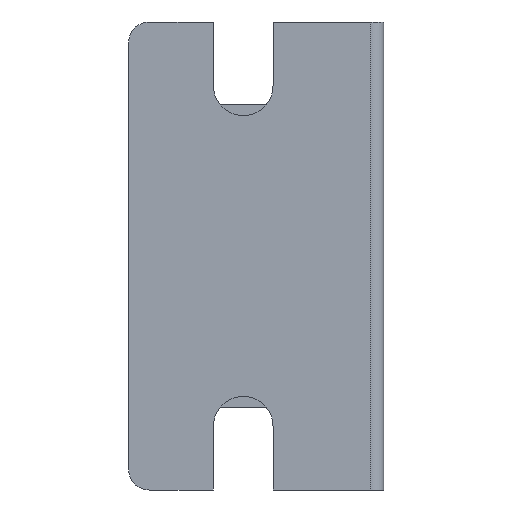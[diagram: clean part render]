
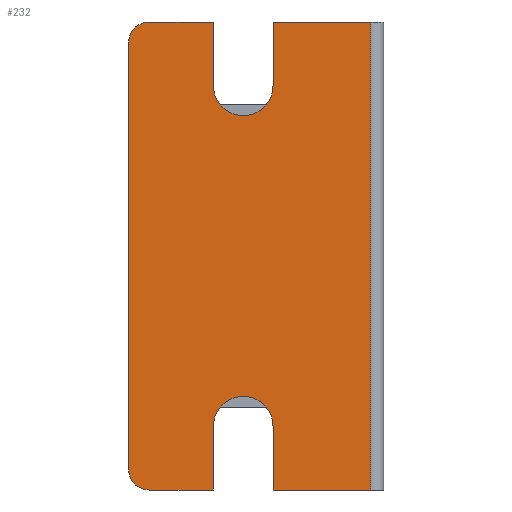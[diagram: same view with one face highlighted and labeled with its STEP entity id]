
A CAD part, front view. The second image highlights one B-rep face of the part: STEP entity #232.
In plain terms, the highlighted planar face has unit normal (0, -1, 0).
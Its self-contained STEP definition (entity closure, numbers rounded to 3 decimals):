
#19 = VERTEX_POINT ( 'NONE', #455 ) ;
#22 = EDGE_CURVE ( 'NONE', #468, #884, #470, .T. ) ;
#24 = LINE ( 'NONE', #951, #693 ) ;
#39 = CARTESIAN_POINT ( 'NONE',  ( -27., 0., -50. ) ) ;
#52 = DIRECTION ( 'NONE',  ( 0., 0., 1. ) ) ;
#86 = FACE_OUTER_BOUND ( 'NONE', #400, .T. ) ;
#88 = CARTESIAN_POINT ( 'NONE',  ( -7., 0., 40. ) ) ;
#96 = CIRCLE ( 'NONE', #1161, 7. ) ;
#114 = DIRECTION ( 'NONE',  ( 0., 1., 0. ) ) ;
#140 = VERTEX_POINT ( 'NONE', #1133 ) ;
#144 = VERTEX_POINT ( 'NONE', #785 ) ;
#146 = ORIENTED_EDGE ( 'NONE', *, *, #1157, .T. ) ;
#164 = VECTOR ( 'NONE', #1259, 1000. ) ;
#171 = EDGE_CURVE ( 'NONE', #701, #19, #1160, .T. ) ;
#183 = CIRCLE ( 'NONE', #1007, 7. ) ;
#185 = DIRECTION ( 'NONE',  ( 0., -1., 0. ) ) ;
#188 = CARTESIAN_POINT ( 'NONE',  ( -7., 0., -40. ) ) ;
#196 = ORIENTED_EDGE ( 'NONE', *, *, #22, .T. ) ;
#203 = VERTEX_POINT ( 'NONE', #610 ) ;
#216 = DIRECTION ( 'NONE',  ( 0., 0., 1. ) ) ;
#218 = LINE ( 'NONE', #599, #1244 ) ;
#222 = AXIS2_PLACEMENT_3D ( 'NONE', #717, #114, #216 ) ;
#229 = DIRECTION ( 'NONE',  ( 0., 1., 0. ) ) ;
#232 = ADVANCED_FACE ( 'NONE', ( #86 ), #724, .F. ) ;
#244 = ORIENTED_EDGE ( 'NONE', *, *, #756, .T. ) ;
#250 = CIRCLE ( 'NONE', #859, 5. ) ;
#252 = CARTESIAN_POINT ( 'NONE',  ( 7., 0., 40. ) ) ;
#253 = ORIENTED_EDGE ( 'NONE', *, *, #1246, .T. ) ;
#265 = CARTESIAN_POINT ( 'NONE',  ( -27., 0., 55. ) ) ;
#284 = DIRECTION ( 'NONE',  ( 0., 0., 1. ) ) ;
#290 = VECTOR ( 'NONE', #1019, 1000. ) ;
#299 = VERTEX_POINT ( 'NONE', #252 ) ;
#330 = CIRCLE ( 'NONE', #731, 7. ) ;
#364 = LINE ( 'NONE', #265, #776 ) ;
#387 = CARTESIAN_POINT ( 'NONE',  ( 7., 0., -55. ) ) ;
#400 = EDGE_LOOP ( 'NONE', ( #1214, #1207, #971, #479, #588, #196, #244, #403, #740, #253, #938, #832, #146, #863, #1060 ) ) ;
#403 = ORIENTED_EDGE ( 'NONE', *, *, #519, .T. ) ;
#417 = VECTOR ( 'NONE', #988, 1000. ) ;
#424 = DIRECTION ( 'NONE',  ( 1., 0., 0. ) ) ;
#442 = VERTEX_POINT ( 'NONE', #980 ) ;
#455 = CARTESIAN_POINT ( 'NONE',  ( -22., 0., -55. ) ) ;
#466 = CARTESIAN_POINT ( 'NONE',  ( -27., 0., -55. ) ) ;
#468 = VERTEX_POINT ( 'NONE', #999 ) ;
#470 = LINE ( 'NONE', #860, #1027 ) ;
#479 = ORIENTED_EDGE ( 'NONE', *, *, #171, .T. ) ;
#480 = DIRECTION ( 'NONE',  ( 0., -1., 0. ) ) ;
#483 = CARTESIAN_POINT ( 'NONE',  ( 0., 0., -40. ) ) ;
#494 = CARTESIAN_POINT ( 'NONE',  ( 7., 0., -40. ) ) ;
#510 = VERTEX_POINT ( 'NONE', #494 ) ;
#519 = EDGE_CURVE ( 'NONE', #648, #510, #96, .T. ) ;
#547 = LINE ( 'NONE', #854, #164 ) ;
#563 = LINE ( 'NONE', #387, #883 ) ;
#567 = EDGE_CURVE ( 'NONE', #442, #701, #906, .T. ) ;
#569 = CARTESIAN_POINT ( 'NONE',  ( -22., 0., 50. ) ) ;
#588 = ORIENTED_EDGE ( 'NONE', *, *, #1148, .T. ) ;
#599 = CARTESIAN_POINT ( 'NONE',  ( -27., 0., 55. ) ) ;
#610 = CARTESIAN_POINT ( 'NONE',  ( 7., 0., -55. ) ) ;
#620 = DIRECTION ( 'NONE',  ( 0., 0., 1. ) ) ;
#629 = VERTEX_POINT ( 'NONE', #911 ) ;
#636 = DIRECTION ( 'NONE',  ( 0., 0., 1. ) ) ;
#648 = VERTEX_POINT ( 'NONE', #813 ) ;
#673 = EDGE_CURVE ( 'NONE', #299, #825, #183, .T. ) ;
#689 = DIRECTION ( 'NONE',  ( 0., 0., 1. ) ) ;
#693 = VECTOR ( 'NONE', #424, 1000. ) ;
#701 = VERTEX_POINT ( 'NONE', #39 ) ;
#717 = CARTESIAN_POINT ( 'NONE',  ( -27., 0., 55. ) ) ;
#723 = CARTESIAN_POINT ( 'NONE',  ( 0., 0., 40. ) ) ;
#724 = PLANE ( 'NONE',  #222 ) ;
#726 = CARTESIAN_POINT ( 'NONE',  ( -22., 0., 55. ) ) ;
#728 = CARTESIAN_POINT ( 'NONE',  ( -27., 0., 55. ) ) ;
#731 = AXIS2_PLACEMENT_3D ( 'NONE', #736, #229, #636 ) ;
#736 = CARTESIAN_POINT ( 'NONE',  ( 0., 0., -40. ) ) ;
#740 = ORIENTED_EDGE ( 'NONE', *, *, #878, .T. ) ;
#756 = EDGE_CURVE ( 'NONE', #884, #648, #330, .T. ) ;
#776 = VECTOR ( 'NONE', #1188, 1000. ) ;
#785 = CARTESIAN_POINT ( 'NONE',  ( 30., 0., 55. ) ) ;
#813 = CARTESIAN_POINT ( 'NONE',  ( 0., 0., -33. ) ) ;
#825 = VERTEX_POINT ( 'NONE', #88 ) ;
#832 = ORIENTED_EDGE ( 'NONE', *, *, #1000, .F. ) ;
#833 = CARTESIAN_POINT ( 'NONE',  ( 30., 0., -55. ) ) ;
#854 = CARTESIAN_POINT ( 'NONE',  ( 7., 0., 40. ) ) ;
#859 = AXIS2_PLACEMENT_3D ( 'NONE', #569, #480, #689 ) ;
#860 = CARTESIAN_POINT ( 'NONE',  ( -7., 0., -40. ) ) ;
#861 = LINE ( 'NONE', #466, #417 ) ;
#862 = EDGE_CURVE ( 'NONE', #825, #140, #991, .T. ) ;
#863 = ORIENTED_EDGE ( 'NONE', *, *, #673, .T. ) ;
#875 = EDGE_CURVE ( 'NONE', #1158, #442, #250, .T. ) ;
#878 = EDGE_CURVE ( 'NONE', #510, #203, #563, .T. ) ;
#883 = VECTOR ( 'NONE', #1196, 1000. ) ;
#884 = VERTEX_POINT ( 'NONE', #188 ) ;
#897 = DIRECTION ( 'NONE',  ( 0., 0., 1. ) ) ;
#906 = LINE ( 'NONE', #728, #290 ) ;
#911 = CARTESIAN_POINT ( 'NONE',  ( 7., 0., 55. ) ) ;
#938 = ORIENTED_EDGE ( 'NONE', *, *, #1076, .F. ) ;
#942 = DIRECTION ( 'NONE',  ( 0., 0., -1. ) ) ;
#951 = CARTESIAN_POINT ( 'NONE',  ( -27., 0., -55. ) ) ;
#971 = ORIENTED_EDGE ( 'NONE', *, *, #567, .T. ) ;
#980 = CARTESIAN_POINT ( 'NONE',  ( -27., 0., 50. ) ) ;
#986 = AXIS2_PLACEMENT_3D ( 'NONE', #1238, #185, #284 ) ;
#988 = DIRECTION ( 'NONE',  ( 1., 0., 0. ) ) ;
#989 = VECTOR ( 'NONE', #1178, 1000. ) ;
#991 = LINE ( 'NONE', #1086, #989 ) ;
#992 = VECTOR ( 'NONE', #942, 1000. ) ;
#999 = CARTESIAN_POINT ( 'NONE',  ( -7., 0., -55. ) ) ;
#1000 = EDGE_CURVE ( 'NONE', #629, #144, #218, .T. ) ;
#1007 = AXIS2_PLACEMENT_3D ( 'NONE', #723, #1131, #620 ) ;
#1019 = DIRECTION ( 'NONE',  ( 0., 0., -1. ) ) ;
#1027 = VECTOR ( 'NONE', #52, 1000. ) ;
#1060 = ORIENTED_EDGE ( 'NONE', *, *, #862, .T. ) ;
#1076 = EDGE_CURVE ( 'NONE', #144, #1149, #1240, .T. ) ;
#1086 = CARTESIAN_POINT ( 'NONE',  ( -7., 0., 55. ) ) ;
#1104 = DIRECTION ( 'NONE',  ( 1., 0., 0. ) ) ;
#1131 = DIRECTION ( 'NONE',  ( 0., 1., 0. ) ) ;
#1133 = CARTESIAN_POINT ( 'NONE',  ( -7., 0., 55. ) ) ;
#1148 = EDGE_CURVE ( 'NONE', #19, #468, #24, .T. ) ;
#1149 = VERTEX_POINT ( 'NONE', #833 ) ;
#1157 = EDGE_CURVE ( 'NONE', #629, #299, #547, .T. ) ;
#1158 = VERTEX_POINT ( 'NONE', #726 ) ;
#1160 = CIRCLE ( 'NONE', #986, 5. ) ;
#1161 = AXIS2_PLACEMENT_3D ( 'NONE', #483, #1289, #897 ) ;
#1178 = DIRECTION ( 'NONE',  ( 0., 0., 1. ) ) ;
#1188 = DIRECTION ( 'NONE',  ( 1., 0., 0. ) ) ;
#1196 = DIRECTION ( 'NONE',  ( 0., 0., -1. ) ) ;
#1207 = ORIENTED_EDGE ( 'NONE', *, *, #875, .T. ) ;
#1214 = ORIENTED_EDGE ( 'NONE', *, *, #1251, .F. ) ;
#1238 = CARTESIAN_POINT ( 'NONE',  ( -22., 0., -50. ) ) ;
#1240 = LINE ( 'NONE', #1254, #992 ) ;
#1244 = VECTOR ( 'NONE', #1104, 1000. ) ;
#1246 = EDGE_CURVE ( 'NONE', #203, #1149, #861, .T. ) ;
#1251 = EDGE_CURVE ( 'NONE', #1158, #140, #364, .T. ) ;
#1254 = CARTESIAN_POINT ( 'NONE',  ( 30., 0., 55. ) ) ;
#1259 = DIRECTION ( 'NONE',  ( 0., 0., -1. ) ) ;
#1289 = DIRECTION ( 'NONE',  ( 0., 1., 0. ) ) ;
